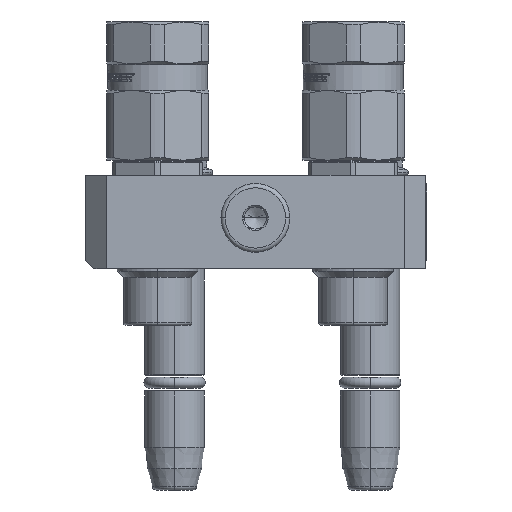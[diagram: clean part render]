
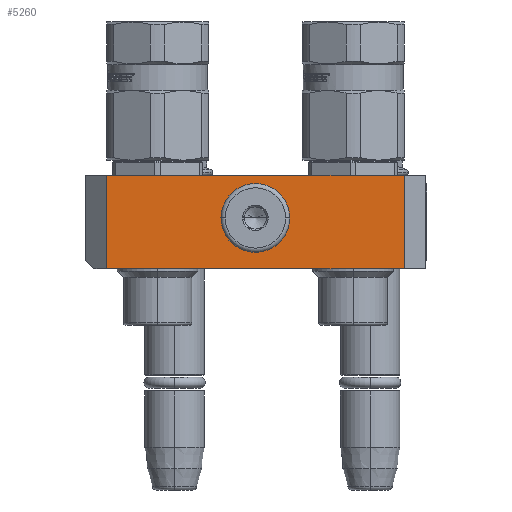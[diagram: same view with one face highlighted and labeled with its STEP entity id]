
A CAD part, front view. The second image highlights one B-rep face of the part: STEP entity #5260.
In plain terms, the highlighted planar face has unit normal (0, -1, 0).
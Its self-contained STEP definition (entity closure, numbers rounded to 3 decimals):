
#5=DIRECTION('',(1.,0.,0.));
#6=VECTOR('',#5,70.);
#7=CARTESIAN_POINT('',(-35.,-44.,0.));
#8=LINE('',#7,#6);
#127=DIRECTION('',(0.,0.,-1.));
#128=VECTOR('',#127,22.);
#129=CARTESIAN_POINT('',(-35.,-44.,22.));
#130=LINE('',#129,#128);
#131=DIRECTION('',(0.,0.,-1.));
#132=VECTOR('',#131,22.);
#133=CARTESIAN_POINT('',(35.,-44.,22.));
#134=LINE('',#133,#132);
#135=CARTESIAN_POINT('',(0.,-44.,12.));
#136=DIRECTION('',(0.,-1.,0.));
#137=DIRECTION('',(-1.,0.,0.));
#138=AXIS2_PLACEMENT_3D('',#135,#136,#137);
#140=CARTESIAN_POINT('',(0.,-44.,12.));
#141=DIRECTION('',(0.,-1.,0.));
#142=DIRECTION('',(1.,0.,0.));
#143=AXIS2_PLACEMENT_3D('',#140,#141,#142);
#173=DIRECTION('',(1.,0.,0.));
#174=VECTOR('',#173,70.);
#175=CARTESIAN_POINT('',(-35.,-44.,22.));
#176=LINE('',#175,#174);
#3637=CARTESIAN_POINT('',(-35.,-44.,0.));
#3639=VERTEX_POINT('',#3637);
#3645=CARTESIAN_POINT('',(-35.,-44.,22.));
#3646=VERTEX_POINT('',#3645);
#3666=CARTESIAN_POINT('',(35.,-44.,0.));
#3668=VERTEX_POINT('',#3666);
#3669=CARTESIAN_POINT('',(35.,-44.,22.));
#3670=VERTEX_POINT('',#3669);
#3697=CARTESIAN_POINT('',(-5.22,-44.,12.));
#3698=VERTEX_POINT('',#3697);
#3699=CARTESIAN_POINT('',(5.22,-44.,12.));
#3700=VERTEX_POINT('',#3699);
#5242=CARTESIAN_POINT('',(-40.,-44.,0.));
#5243=DIRECTION('',(0.,-1.,0.));
#5244=DIRECTION('',(1.,0.,0.));
#5245=AXIS2_PLACEMENT_3D('',#5242,#5243,#5244);
#5246=PLANE('',#5245);
#5247=ORIENTED_EDGE('',*,*,#5145,.F.);
#5249=ORIENTED_EDGE('',*,*,#5248,.T.);
#5250=ORIENTED_EDGE('',*,*,#5234,.T.);
#5251=ORIENTED_EDGE('',*,*,#5080,.F.);
#5252=EDGE_LOOP('',(#5247,#5249,#5250,#5251));
#5253=FACE_OUTER_BOUND('',#5252,.F.);
#5255=ORIENTED_EDGE('',*,*,#5254,.T.);
#5257=ORIENTED_EDGE('',*,*,#5256,.T.);
#5258=EDGE_LOOP('',(#5255,#5257));
#5259=FACE_BOUND('',#5258,.F.);
#5260=ADVANCED_FACE('',(#5253,#5259),#5246,.T.);
#139=CIRCLE('',#138,5.22);
#144=CIRCLE('',#143,5.22);
#5080=EDGE_CURVE('',#3639,#3668,#8,.T.);
#5145=EDGE_CURVE('',#3646,#3639,#130,.T.);
#5234=EDGE_CURVE('',#3670,#3668,#134,.T.);
#5248=EDGE_CURVE('',#3646,#3670,#176,.T.);
#5254=EDGE_CURVE('',#3698,#3700,#139,.T.);
#5256=EDGE_CURVE('',#3700,#3698,#144,.T.);
